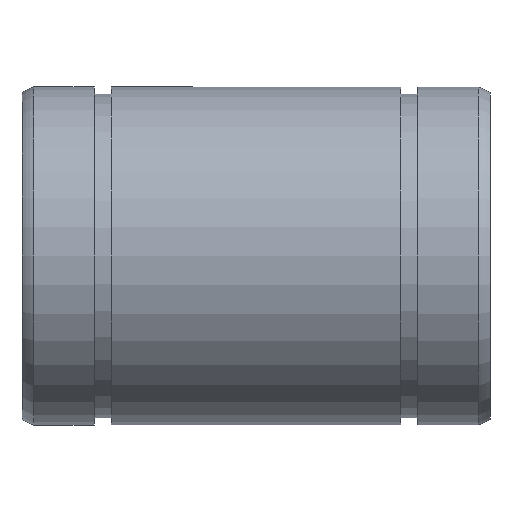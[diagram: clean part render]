
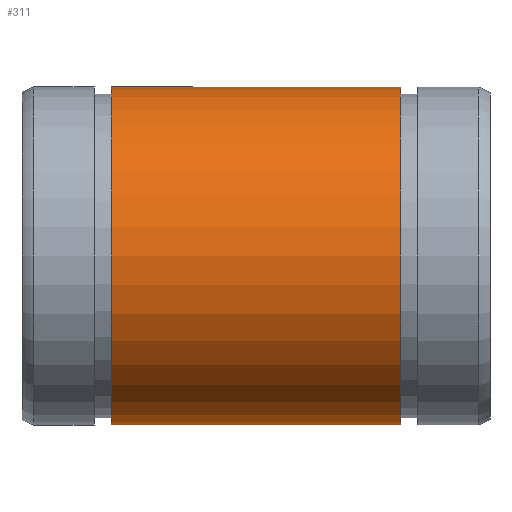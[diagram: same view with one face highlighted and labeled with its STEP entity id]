
A CAD part, front view. The second image highlights one B-rep face of the part: STEP entity #311.
In plain terms, the highlighted cylindrical face has radius 13 mm (diameter 26 mm), a full revolution.
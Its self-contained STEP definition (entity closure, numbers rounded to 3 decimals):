
#277=CARTESIAN_POINT('',(29.15,0.0,13.));
#278=VERTEX_POINT('',#277);
#279=CARTESIAN_POINT('',(29.15,0.0,0.));
#280=DIRECTION('',(-1.0,0.0,0.0));
#281=DIRECTION('',(0.0,0.0,1.0));
#282=AXIS2_PLACEMENT_3D('',#279,#280,#281);
#283=CIRCLE('',#282,13.);
#284=EDGE_CURVE('',#278,#278,#283,.T.);
#292=CARTESIAN_POINT('',(18.,0.0,0.));
#293=DIRECTION('',(-1.0,0.0,0.0));
#294=DIRECTION('',(0.0,0.0,1.0));
#295=AXIS2_PLACEMENT_3D('',#292,#293,#294);
#296=CYLINDRICAL_SURFACE('',#295,13.);
#297=CARTESIAN_POINT('',(6.85,0.0,13.));
#298=VERTEX_POINT('',#297);
#299=CARTESIAN_POINT('',(6.85,0.0,0.));
#300=DIRECTION('',(-1.0,0.0,0.0));
#301=DIRECTION('',(0.0,0.0,1.0));
#302=AXIS2_PLACEMENT_3D('',#299,#300,#301);
#303=CIRCLE('',#302,13.0);
#304=EDGE_CURVE('',#298,#298,#303,.T.);
#305=ORIENTED_EDGE('',*,*,#304,.F.);
#306=EDGE_LOOP('',(#305));
#307=FACE_OUTER_BOUND('',#306,.T.);
#308=ORIENTED_EDGE('',*,*,#284,.T.);
#309=EDGE_LOOP('',(#308));
#310=FACE_BOUND('',#309,.T.);
#311=ADVANCED_FACE('',(#307,#310),#296,.T.);
